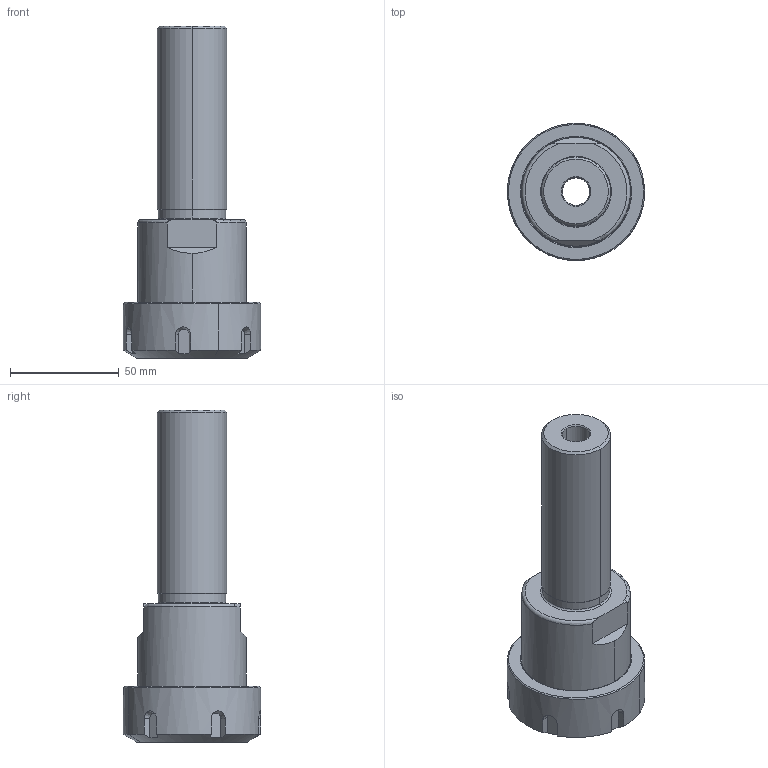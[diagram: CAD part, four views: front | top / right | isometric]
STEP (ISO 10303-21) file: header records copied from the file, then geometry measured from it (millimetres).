
FILE_DESCRIPTION (( 'STEP AP214' ), '1' );
FILE_NAME ('RSSER40600.STEP', '2019-02-05T19:42:05', ( '' ), ( '' ), 'SwSTEP 2.0', 'SolidWorks 2019', '' );
FILE_SCHEMA (( 'AUTOMOTIVE_DESIGN' ));
Length unit declared in the file: inch
Products named in the file (1): RSSER40600
Bounding box: 62.94 x 62.99 x 152.4 mm (x, y, z)
Volume: 148679.4 mm3; surface area: 37771.4 mm2
Topology: 1 solids, 1 shells, 281 faces, 722 edges, 472 vertices
Faces by surface type: plane 192, bspline 33, cone 28, cylinder 18, torus 10
Entity records: 14433 total; most frequent: CARTESIAN_POINT 4109, ORIENTED_EDGE 1444, DIRECTION 1212, EDGE_CURVE 722, VECTOR 534, LINE 534, VERTEX_POINT 472, AXIS2_PLACEMENT_3D 339
